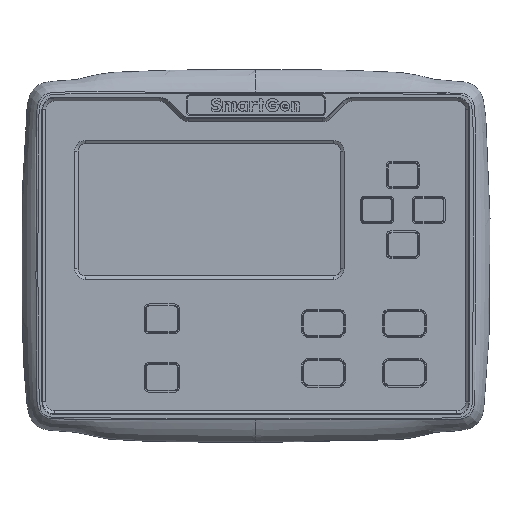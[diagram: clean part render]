
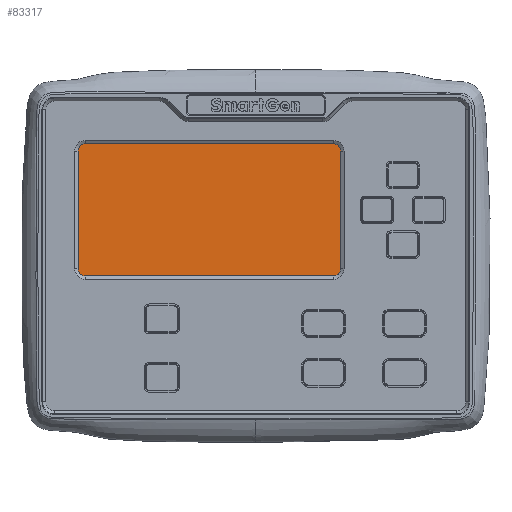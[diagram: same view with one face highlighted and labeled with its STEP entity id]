
A CAD part, top view. The second image highlights one B-rep face of the part: STEP entity #83317.
In plain terms, the highlighted planar face has unit normal (0, 0, 1).
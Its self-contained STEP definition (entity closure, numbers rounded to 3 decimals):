
#1252 = ORIENTED_EDGE ( 'NONE', *, *, #143994, .F. ) ;
#4052 = DIRECTION ( 'NONE',  ( 1., 0., 0. ) ) ;
#4636 = EDGE_CURVE ( 'NONE', #7172, #34449, #174410, .T. ) ;
#6730 = CARTESIAN_POINT ( 'NONE',  ( -79.131, -5.675, -2.5 ) ) ;
#6898 = VERTEX_POINT ( 'NONE', #21265 ) ;
#7172 = VERTEX_POINT ( 'NONE', #54981 ) ;
#8402 = VECTOR ( 'NONE', #17964, 1000. ) ;
#17964 = DIRECTION ( 'NONE',  ( -1., 0., 0. ) ) ;
#19873 = AXIS2_PLACEMENT_3D ( 'NONE', #81383, #181521, #95828 ) ;
#20734 = CARTESIAN_POINT ( 'NONE',  ( -75.931, 46.725, -2.5 ) ) ;
#21265 = CARTESIAN_POINT ( 'NONE',  ( 34.569, 49.925, -2.5 ) ) ;
#21372 = ORIENTED_EDGE ( 'NONE', *, *, #184843, .F. ) ;
#22413 = AXIS2_PLACEMENT_3D ( 'NONE', #20734, #120775, #35128 ) ;
#27217 = DIRECTION ( 'NONE',  ( 0., 1., 0. ) ) ;
#34449 = VERTEX_POINT ( 'NONE', #166369 ) ;
#34609 = CARTESIAN_POINT ( 'NONE',  ( -75.931, -8.875, -2.5 ) ) ;
#34884 = VERTEX_POINT ( 'NONE', #6730 ) ;
#35128 = DIRECTION ( 'NONE',  ( 1., 0., 0. ) ) ;
#45830 = DIRECTION ( 'NONE',  ( -1., 0., 0. ) ) ;
#46284 = ORIENTED_EDGE ( 'NONE', *, *, #81548, .F. ) ;
#47189 = AXIS2_PLACEMENT_3D ( 'NONE', #74633, #174752, #89088 ) ;
#50493 = CIRCLE ( 'NONE', #55595, 3.2 ) ;
#50969 = AXIS2_PLACEMENT_3D ( 'NONE', #103557, #89751, #4052 ) ;
#52786 = EDGE_CURVE ( 'NONE', #131252, #175992, #135073, .T. ) ;
#54981 = CARTESIAN_POINT ( 'NONE',  ( -79.131, 46.725, -2.5 ) ) ;
#55595 = AXIS2_PLACEMENT_3D ( 'NONE', #73661, #173722, #88096 ) ;
#60019 = EDGE_CURVE ( 'NONE', #34884, #7172, #96538, .T. ) ;
#63752 = CARTESIAN_POINT ( 'NONE',  ( 37.769, -5.675, -2.5 ) ) ;
#64904 = LINE ( 'NONE', #117101, #98549 ) ;
#68504 = ORIENTED_EDGE ( 'NONE', *, *, #93551, .F. ) ;
#68665 = EDGE_CURVE ( 'NONE', #6898, #34449, #84549, .T. ) ;
#72971 = DIRECTION ( 'NONE',  ( 0., 1., 0. ) ) ;
#73661 = CARTESIAN_POINT ( 'NONE',  ( 34.569, 46.725, -2.5 ) ) ;
#74633 = CARTESIAN_POINT ( 'NONE',  ( -75.931, -5.675, -2.5 ) ) ;
#74778 = CARTESIAN_POINT ( 'NONE',  ( 37.769, 46.725, -2.5 ) ) ;
#75291 = PLANE ( 'NONE',  #50969 ) ;
#81383 = CARTESIAN_POINT ( 'NONE',  ( 34.569, -5.675, -2.5 ) ) ;
#81548 = EDGE_CURVE ( 'NONE', #113515, #34884, #91681, .T. ) ;
#83317 = ADVANCED_FACE ( 'NONE', ( #124895 ), #75291, .T. ) ;
#84072 = CARTESIAN_POINT ( 'NONE',  ( 37.769, 20.525, -2.5 ) ) ;
#84549 = LINE ( 'NONE', #103712, #8402 ) ;
#88096 = DIRECTION ( 'NONE',  ( 1., 0., 0. ) ) ;
#89088 = DIRECTION ( 'NONE',  ( 1., 0., 0. ) ) ;
#89751 = DIRECTION ( 'NONE',  ( 0., 0., 1. ) ) ;
#91681 = CIRCLE ( 'NONE', #47189, 3.2 ) ;
#93551 = EDGE_CURVE ( 'NONE', #146934, #113515, #64904, .T. ) ;
#95828 = DIRECTION ( 'NONE',  ( 1., 0., 0. ) ) ;
#96538 = LINE ( 'NONE', #158728, #134570 ) ;
#98549 = VECTOR ( 'NONE', #45830, 1000. ) ;
#101601 = VECTOR ( 'NONE', #27217, 1000. ) ;
#103557 = CARTESIAN_POINT ( 'NONE',  ( -78.931, -8.675, -2.5 ) ) ;
#103712 = CARTESIAN_POINT ( 'NONE',  ( -20.681, 49.925, -2.5 ) ) ;
#113515 = VERTEX_POINT ( 'NONE', #34609 ) ;
#113641 = EDGE_LOOP ( 'NONE', ( #147918, #46284, #68504, #21372, #160489, #1252, #178376, #135326 ) ) ;
#117101 = CARTESIAN_POINT ( 'NONE',  ( -78.931, -8.875, -2.5 ) ) ;
#120113 = CIRCLE ( 'NONE', #19873, 3.2 ) ;
#120775 = DIRECTION ( 'NONE',  ( 0., 0., -1. ) ) ;
#124895 = FACE_OUTER_BOUND ( 'NONE', #113641, .T. ) ;
#131252 = VERTEX_POINT ( 'NONE', #63752 ) ;
#134570 = VECTOR ( 'NONE', #72971, 1000. ) ;
#135073 = LINE ( 'NONE', #84072, #101601 ) ;
#135326 = ORIENTED_EDGE ( 'NONE', *, *, #4636, .F. ) ;
#143994 = EDGE_CURVE ( 'NONE', #6898, #175992, #50493, .T. ) ;
#146934 = VERTEX_POINT ( 'NONE', #148647 ) ;
#147918 = ORIENTED_EDGE ( 'NONE', *, *, #60019, .F. ) ;
#148647 = CARTESIAN_POINT ( 'NONE',  ( 34.569, -8.875, -2.5 ) ) ;
#158728 = CARTESIAN_POINT ( 'NONE',  ( -79.131, -8.675, -2.5 ) ) ;
#160489 = ORIENTED_EDGE ( 'NONE', *, *, #52786, .T. ) ;
#166369 = CARTESIAN_POINT ( 'NONE',  ( -75.931, 49.925, -2.5 ) ) ;
#173722 = DIRECTION ( 'NONE',  ( 0., 0., -1. ) ) ;
#174410 = CIRCLE ( 'NONE', #22413, 3.2 ) ;
#174752 = DIRECTION ( 'NONE',  ( 0., 0., -1. ) ) ;
#175992 = VERTEX_POINT ( 'NONE', #74778 ) ;
#178376 = ORIENTED_EDGE ( 'NONE', *, *, #68665, .T. ) ;
#181521 = DIRECTION ( 'NONE',  ( 0., 0., -1. ) ) ;
#184843 = EDGE_CURVE ( 'NONE', #131252, #146934, #120113, .T. ) ;
